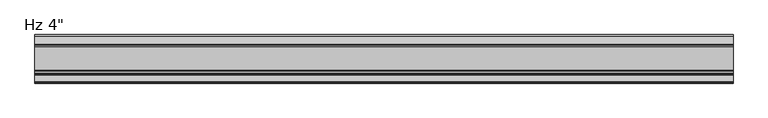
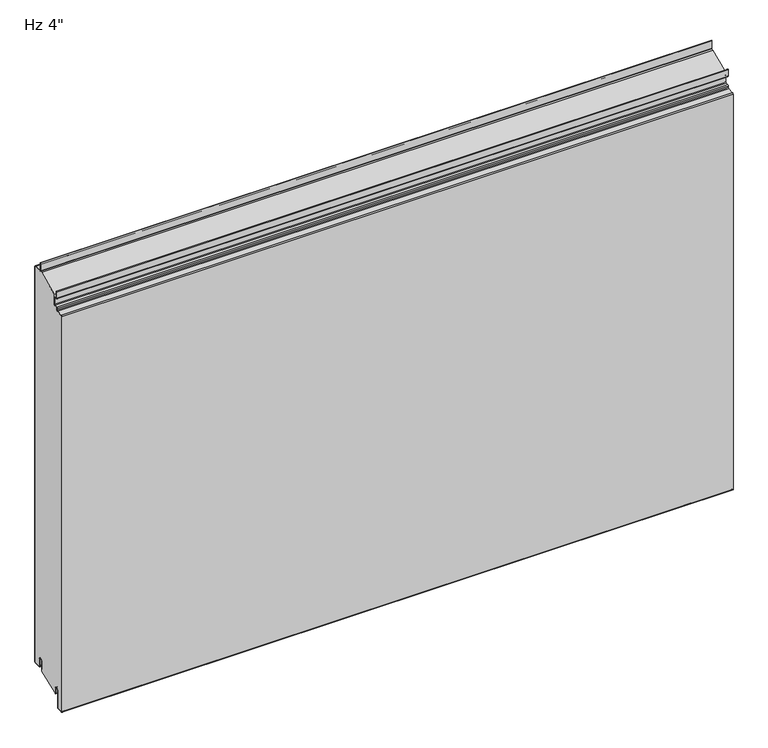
"""IFC4 building model written with IfcOpenShell, lengths in millimetres: plate geometry."""

import ifcopenshell
import ifcopenshell.guid

model = None  # the IFC model being written
_history = None  # IfcOwnerHistory: only IFC2X3 demands one
_inside = {}  # id of a spatial element -> (the spatial element, [elements in it])
_under = {}  # id of a project, library or spatial element -> (it, [spatial elements below it])
_declared = {}  # id of a project -> (the project, [libraries it declares])
_typed = {}  # id of a type object -> (the type object, [elements of that type])
_made_of = {}  # id of a material, layer set ... -> (it, [elements and type objects made of it])


def new_model(schema):
    """Start an empty IFC model of exactly this schema.

    Asked for "IFC4X3", IfcOpenShell would pick the latest addendum, in which some entities
    have other attributes; the version numbers below select the first issue.
    IFC2X3 requires an IfcOwnerHistory on every rooted entity: one is made here for all.
    """
    global model, _history
    if schema == "IFC4X3":
        model = ifcopenshell.file(schema_version=(4, 3, 0, 0))
    else:
        model = ifcopenshell.file(schema=schema)
    _inside.clear()
    _under.clear()
    _declared.clear()
    _typed.clear()
    _made_of.clear()
    _history = None
    if model.schema == "IFC2X3":
        org = make("IfcOrganization", Name="unknown")
        user = make(
            "IfcPersonAndOrganization",
            ThePerson=make("IfcPerson", FamilyName="unknown"),
            TheOrganization=org,
        )
        app = make(
            "IfcApplication",
            ApplicationDeveloper=org,
            Version="unknown",
            ApplicationFullName="unknown",
            ApplicationIdentifier="unknown",
        )
        _history = make(
            "IfcOwnerHistory",
            OwningUser=user,
            OwningApplication=app,
            ChangeAction="ADDED",
            CreationDate=0,
        )
    return model


def make(cls, **values):
    """One entity of the class cls with the attributes given. An attribute that is None is left unset."""
    return model.create_entity(
        cls, **{name: value for name, value in values.items() if value is not None}
    )


def rooted(cls, **values):
    """An entity with a GlobalId (a new one), such as an element, a storey or a relation."""
    return make(cls, GlobalId=ifcopenshell.guid.new(), OwnerHistory=_history, **values)


def si_unit(unit_type, name, prefix=None):
    """IfcSIUnit, for example si_unit("LENGTHUNIT", "METRE", prefix="MILLI")."""
    return make("IfcSIUnit", UnitType=unit_type, Prefix=prefix, Name=name)


def assignment(units):
    """IfcUnitAssignment: the units of a project."""
    return None if units is None else make("IfcUnitAssignment", Units=units)


def point(xyz):
    """IfcCartesianPoint."""
    return None if xyz is None else make("IfcCartesianPoint", Coordinates=xyz)


def direction(xyz):
    """IfcDirection."""
    return None if xyz is None else make("IfcDirection", DirectionRatios=xyz)


def frame(location, z_axis=None, x_axis=None):
    """IfcAxis2Placement3D, a coordinate frame: its origin and axes. An axis left out is left unset."""
    return make(
        "IfcAxis2Placement3D",
        Location=point(location),
        Axis=direction(z_axis),
        RefDirection=direction(x_axis),
    )


def frame_2d(location, x_axis=None):
    """IfcAxis2Placement2D, a coordinate frame in the plane: its origin and x axis."""
    return make(
        "IfcAxis2Placement2D", Location=point(location), RefDirection=direction(x_axis)
    )


def origin():
    """The frame at (0, 0, 0) with its axes left unset."""
    return frame((0.0, 0.0, 0.0))


def place(relative_to, where):
    """IfcLocalPlacement: puts the frame where relative to a parent placement (None: the world)."""
    return make(
        "IfcLocalPlacement", PlacementRelTo=relative_to, RelativePlacement=where
    )


def context(
    kind, dimensions, precision=None, world=None, true_north=None, identifier=None
):
    """IfcGeometricRepresentationContext, for example the 3D "Model" context."""
    return make(
        "IfcGeometricRepresentationContext",
        ContextIdentifier=identifier,
        ContextType=kind,
        CoordinateSpaceDimension=dimensions,
        Precision=precision,
        WorldCoordinateSystem=world,
        TrueNorth=true_north,
    )


def project(units=None, contexts=None):
    """IfcProject with its units and contexts."""
    return rooted(
        "IfcProject",
        Name="project",
        RepresentationContexts=contexts,
        UnitsInContext=assignment(units),
    )


def spatial(cls, under=None, at=None, **own):
    """A site, building, storey or space (cls), placed at a placement, below another one or the project."""
    s = rooted(cls, ObjectPlacement=at, **own)
    if under is not None:
        _under.setdefault(under.id(), (under, []))[1].append(s)
    return s


def polyline(points):
    """IfcPolyline through the points."""
    return make("IfcPolyline", Points=[point(p) for p in points])


def circle_curve(where, radius):
    """IfcCircle in the frame where."""
    return make("IfcCircle", Position=where, Radius=radius)


def ellipse_curve(where, semi_axis1, semi_axis2):
    """IfcEllipse in the frame where."""
    return make(
        "IfcEllipse", Position=where, SemiAxis1=semi_axis1, SemiAxis2=semi_axis2
    )


def trimmed(basis, trim1, trim2, sense, master):
    """IfcTrimmedCurve: the piece of a basis curve between two trims."""
    return make(
        "IfcTrimmedCurve",
        BasisCurve=basis,
        Trim1=trim1,
        Trim2=trim2,
        SenseAgreement=sense,
        MasterRepresentation=master,
    )


def segment(curve, same_sense, transition):
    """IfcCompositeCurveSegment."""
    return make(
        "IfcCompositeCurveSegment",
        Transition=transition,
        SameSense=same_sense,
        ParentCurve=curve,
    )


def composite_curve(segments, self_intersect=None):
    """IfcCompositeCurve: segments joined end to end."""
    return make("IfcCompositeCurve", Segments=segments, SelfIntersect=self_intersect)


def outline(outer, holes=None, kind="AREA"):
    """IfcArbitraryClosedProfileDef: a profile drawn as a closed curve; with holes, ...WithVoids."""
    if holes is None:
        return make("IfcArbitraryClosedProfileDef", ProfileType=kind, OuterCurve=outer)
    return make(
        "IfcArbitraryProfileDefWithVoids",
        ProfileType=kind,
        OuterCurve=outer,
        InnerCurves=holes,
    )


def extrude(swept, where, along, depth):
    """IfcExtrudedAreaSolid: the profile swept, set in the frame where, extruded along a direction by depth."""
    return make(
        "IfcExtrudedAreaSolid",
        SweptArea=swept,
        Position=where,
        ExtrudedDirection=direction(along),
        Depth=depth,
    )


def shape(context_of_items, identifier, shape_type, items):
    """IfcShapeRepresentation: the items that make up one representation, for example the "Body"."""
    return make(
        "IfcShapeRepresentation",
        ContextOfItems=context_of_items,
        RepresentationIdentifier=identifier,
        RepresentationType=shape_type,
        Items=items,
    )


def source(mapping_origin, context_of_items, identifier, shape_type, items):
    """IfcRepresentationMap: a shape defined once, which mapped items show again and again."""
    return make(
        "IfcRepresentationMap",
        MappingOrigin=mapping_origin,
        MappedRepresentation=shape(context_of_items, identifier, shape_type, items),
    )


def transform(
    local_origin,
    x_axis=None,
    y_axis=None,
    z_axis=None,
    scale=None,
    scale2=None,
    scale3=None,
    uniform=True,
):
    """IfcCartesianTransformationOperator3D, or its non-uniform kind. x_axis, y_axis, z_axis: its Axis1, 2, 3."""
    if uniform:
        return make(
            "IfcCartesianTransformationOperator3D",
            Axis1=direction(x_axis),
            Axis2=direction(y_axis),
            LocalOrigin=point(local_origin),
            Scale=scale,
            Axis3=direction(z_axis),
        )
    return make(
        "IfcCartesianTransformationOperator3DnonUniform",
        Axis1=direction(x_axis),
        Axis2=direction(y_axis),
        LocalOrigin=point(local_origin),
        Scale=scale,
        Axis3=direction(z_axis),
        Scale2=scale2,
        Scale3=scale3,
    )


def mapped(mapping_source, mapping_target):
    """IfcMappedItem: shows the shape of a source again, moved by a transform."""
    return make(
        "IfcMappedItem", MappingSource=mapping_source, MappingTarget=mapping_target
    )


def made_of(thing, what):
    """Note that an element or type object is made of a material, layer set ...; save() writes the relation."""
    if what is not None:
        _made_of.setdefault(what.id(), (what, []))[1].append(thing)
    return thing


def element(
    cls,
    number,
    at=None,
    inside=None,
    cuts=None,
    type_object=None,
    material=None,
    context=None,
    identifier="Body",
    shape_type=None,
    held_by="IfcProductDefinitionShape",
    body=None,
    shapes=None,
    **own,
):
    """One element of the class cls, such as IfcWall. Its Tag is "e" and its number.

    at: its placement. inside: the storey or other place that contains it. cuts: it is an
    opening in that element (IfcRelVoidsElement). A single representation is given by context,
    identifier, shape_type and body (its items); several are given by shapes. held_by: the class
    of the entity that holds the representations. save() writes the other relations.
    """
    e = rooted(cls, Tag="e%d" % number, ObjectPlacement=at, **own)
    if body is not None:
        shapes = [shape(context, identifier, shape_type, body)]
    if shapes is not None:
        e.Representation = make(held_by, Representations=shapes)
    if inside is not None:
        _inside.setdefault(inside.id(), (inside, []))[1].append(e)
    if cuts is not None:
        rooted(
            "IfcRelVoidsElement", RelatingBuildingElement=cuts, RelatedOpeningElement=e
        )
    if type_object is not None:
        _typed.setdefault(type_object.id(), (type_object, []))[1].append(e)
    return made_of(e, material)


def aggregate(whole, parts):
    """IfcRelAggregates: a whole, such as a stair, and the parts it consists of."""
    return rooted("IfcRelAggregates", RelatingObject=whole, RelatedObjects=parts)


def save(model, path):
    """Write the relations noted so far, then the file.

    IfcRelAggregates (storeys below a building ...), IfcRelContainedInSpatialStructure (elements
    in a storey), IfcRelDefinesByType, IfcRelAssociatesMaterial and IfcRelDeclares: one each for
    every whole, place, type object, material and project.
    """
    for whole, parts in _under.values():
        aggregate(whole, parts)
    for where, things in _inside.values():
        rooted(
            "IfcRelContainedInSpatialStructure",
            RelatedElements=things,
            RelatingStructure=where,
        )
    for kind, things in _typed.values():
        rooted("IfcRelDefinesByType", RelatedObjects=things, RelatingType=kind)
    for what, things in _made_of.values():
        rooted("IfcRelAssociatesMaterial", RelatedObjects=things, RelatingMaterial=what)
    for by, libraries in _declared.values():
        rooted("IfcRelDeclares", RelatingContext=by, RelatedDefinitions=libraries)
    model.write(path)


def plane_surface(at):
    """IfcPlane: the flat surface through the origin of the frame at, square to its z axis."""
    return make("IfcPlane", Position=at)


def cylinder_surface(at, radius):
    """IfcCylindricalSurface: all points at the distance radius from the z axis of the frame at."""
    return make("IfcCylindricalSurface", Position=at, Radius=radius)


def revolved_surface(curve, axis_point, axis_direction):
    """IfcSurfaceOfRevolution: the curve turned about the line through axis_point along axis_direction."""
    return make(
        "IfcSurfaceOfRevolution",
        SweptCurve=make("IfcArbitraryOpenProfileDef", ProfileType="CURVE", Curve=curve),
        AxisPosition=make("IfcAxis1Placement", Location=point(axis_point), Axis=direction(axis_direction)),
    )


def extruded_surface(curve, direction_of_extrusion, depth):
    """IfcSurfaceOfLinearExtrusion: the curve pushed along a direction by depth."""
    return make(
        "IfcSurfaceOfLinearExtrusion",
        SweptCurve=make("IfcArbitraryOpenProfileDef", ProfileType="CURVE", Curve=curve),
        ExtrudedDirection=direction(direction_of_extrusion),
        Depth=depth,
    )


def advanced_brep(points, edges, surfaces, faces):
    """IfcAdvancedBrep: a solid bounded by faces that lie on surfaces and meet in shared edges.

    An edge is (start, end): straight between two places in points (the first is 0);
    or (start, end, curve); or (start, end, curve, False) where it runs against its curve.
    A face is (place in surfaces, loops), or (place, loops, False) where it looks against
    its surface's normal. A loop lists edges by number (the first is 1), with a minus sign
    where the edge is run from its end to its start. The first loop is the outer one.
    """
    corners = [point(p) for p in points]
    vertices = [make("IfcVertexPoint", VertexGeometry=c) for c in corners]
    made = []
    for start, end, *more in edges:
        made.append(
            make(
                "IfcEdgeCurve",
                EdgeStart=vertices[start],
                EdgeEnd=vertices[end],
                EdgeGeometry=more[0] if more else make("IfcPolyline", Points=[corners[start], corners[end]]),
                SameSense=more[1] if len(more) > 1 else True,
            )
        )
    hull = []
    for where, loops, *sense in faces:
        bounds = []
        for j, loop in enumerate(loops):
            ring = [make("IfcOrientedEdge", EdgeElement=made[abs(k) - 1], Orientation=k > 0) for k in loop]
            bounds.append(
                make(
                    "IfcFaceOuterBound" if j == 0 else "IfcFaceBound",
                    Bound=make("IfcEdgeLoop", EdgeList=ring),
                    Orientation=True,
                )
            )
        hull.append(make("IfcAdvancedFace", Bounds=bounds, FaceSurface=surfaces[where], SameSense=sense[0] if sense else True))
    return make("IfcAdvancedBrep", Outer=make("IfcClosedShell", CfsFaces=hull))


def plate_6702c4e9(model_context):
    return source(origin(), model_context, "Body", "SolidModel", [
        extrude(outline(composite_curve([segment(trimmed(circle_curve(frame_2d((-21.43125, 19.05)), 4.96875), [point((-16.4625, 19.05))], [point((-26.4, 19.05))], True, "CARTESIAN"), True, "CONTINUOUS"), segment(polyline([(-26.4, 19.05), (-26.4, -3.1323422), (-74.6157227, -23.01875), (-76.2, -23.01875), (-76.2, -13.5080174), (-76.99375, -13.5080174), (-76.7875, -11.9205174)]), True, "CONTINUOUS"), segment(trimmed(circle_curve(frame_2d((-81.75625, -11.9205174)), 4.96875), [point((-76.7875, -11.9205174))], [point((-86.725, -11.9205174))], True, "CARTESIAN"), True, "CONTINUOUS"), segment(polyline([(-86.725, -11.9205174), (-86.725, -50.1038221)]), True, "CONTINUOUS"), segment(trimmed(circle_curve(frame_2d((-88.10625, -50.1038221)), 1.38125), [point((-86.725, -50.1038221))], [point((-88.033961, -51.4831791))], False, "CARTESIAN"), True, "CONTINUOUS"), segment(polyline([(-88.033961, -51.4831791), (-99.146461, -52.0655606)]), True, "CONTINUOUS"), segment(trimmed(circle_curve(frame_2d((-99.21875, -50.6862035)), 1.38125), [point((-99.146461, -52.0655606))], [point((-100.6, -50.6862035))], False, "CARTESIAN"), True, "CONTINUOUS"), segment(polyline([(-100.6, -50.6862035), (-100.6, 857.3572607)]), True, "CONTINUOUS"), segment(trimmed(circle_curve(frame_2d((-99.21875, 857.3572607)), 1.38125), [point((-100.6, 857.3572607))], [point((-99.291039, 858.7366177))], False, "CARTESIAN"), True, "CONTINUOUS"), segment(polyline([(-99.291039, 858.7366177), (-85.5895807, 859.4546807)]), True, "CONTINUOUS"), segment(trimmed(circle_curve(frame_2d((-85.725, 862.0386347)), 2.5875), [point((-85.5895807, 859.4546807))], [point((-83.1375, 862.0386347))], True, "CARTESIAN"), True, "CONTINUOUS"), segment(polyline([(-83.1375, 862.0386347), (-83.1375, 865.0824411)]), True, "CONTINUOUS"), segment(trimmed(circle_curve(frame_2d((-81.75625, 865.0824411)), 1.38125), [point((-83.1375, 865.0824411))], [point((-81.828539, 866.4617981))], False, "CARTESIAN"), True, "CONTINUOUS"), segment(polyline([(-81.828539, 866.4617981), (-76.0645807, 866.7638744)]), True, "CONTINUOUS"), segment(trimmed(circle_curve(frame_2d((-76.2, 869.3478283)), 2.5875), [point((-76.0645807, 866.7638744))], [point((-73.6125, 869.3478283))], True, "CARTESIAN"), True, "CONTINUOUS"), segment(polyline([(-73.6125, 869.3478283), (-73.6125, 891.7892934), (-24.9057308, 912.60625), (-2.38125, 912.60625)]), True, "CONTINUOUS"), segment(trimmed(circle_curve(frame_2d((-2.38125, 911.225)), 1.38125), [point((-2.38125, 912.60625))], [point((-1.0, 911.225))], False, "CARTESIAN"), True, "CONTINUOUS"), segment(polyline([(-1.0, 911.225), (-1.0, 3.175)]), True, "CONTINUOUS"), segment(trimmed(circle_curve(frame_2d((-2.38125, 3.175)), 1.38125), [point((-1.0, 3.175))], [point((-2.38125, 1.79375))], False, "CARTESIAN"), True, "CONTINUOUS"), segment(polyline([(-2.38125, 1.79375), (-15.08125, 1.79375)]), True, "CONTINUOUS"), segment(trimmed(circle_curve(frame_2d((-15.08125, 3.175)), 1.38125), [point((-15.08125, 1.79375))], [point((-16.4625, 3.175))], False, "CARTESIAN"), True, "CONTINUOUS"), segment(polyline([(-16.4625, 3.175), (-16.4625, 19.05)]), True, "CONTINUOUS")], self_intersect=False)), frame((-730.0, 0.0, 0.0), z_axis=(1.0, 0.0, 0.0), x_axis=(0.0, 1.0, 0.0)), (0.0, 0.0, 1.0), 1460.0),
        extrude(outline(composite_curve([segment(polyline([(-25.4, 0.79375), (-26.4, 0.79375), (-26.4, 19.05)]), True, "CONTINUOUS"), segment(trimmed(circle_curve(frame_2d((-21.43125, 19.05)), 4.96875), [point((-26.4, 19.05))], [point((-16.4625, 19.05))], False, "CARTESIAN"), True, "CONTINUOUS"), segment(polyline([(-16.4625, 19.05), (-16.4625, 3.175)]), True, "CONTINUOUS"), segment(trimmed(circle_curve(frame_2d((-15.08125, 3.175)), 1.38125), [point((-16.4625, 3.175))], [point((-15.08125, 1.79375))], True, "CARTESIAN"), True, "CONTINUOUS"), segment(polyline([(-15.08125, 1.79375), (-2.38125, 1.79375)]), True, "CONTINUOUS"), segment(trimmed(circle_curve(frame_2d((-2.38125, 3.175)), 1.38125), [point((-2.38125, 1.79375))], [point((-1.0, 3.175))], True, "CARTESIAN"), True, "CONTINUOUS"), segment(polyline([(-1.0, 3.175), (-1.0, 911.225)]), True, "CONTINUOUS"), segment(trimmed(circle_curve(frame_2d((-2.38125, 911.225)), 1.38125), [point((-1.0, 911.225))], [point((-2.38125, 912.60625))], True, "CARTESIAN"), True, "CONTINUOUS"), segment(polyline([(-2.38125, 912.60625), (-19.446875, 912.60625)]), True, "CONTINUOUS"), segment(trimmed(circle_curve(frame_2d((-19.446875, 915.19375)), 2.5875), [point((-19.446875, 912.60625))], [point((-22.034375, 915.19375))], False, "CARTESIAN"), True, "CONTINUOUS"), segment(polyline([(-22.034375, 915.19375), (-22.034375, 932.65625), (-21.034375, 932.65625), (-21.034375, 915.19375)]), True, "CONTINUOUS"), segment(trimmed(circle_curve(frame_2d((-19.446875, 915.19375)), 1.5875), [point((-21.034375, 915.19375))], [point((-19.446875, 913.60625))], True, "CARTESIAN"), True, "CONTINUOUS"), segment(polyline([(-19.446875, 913.60625), (-2.38125, 913.60625)]), True, "CONTINUOUS"), segment(trimmed(circle_curve(frame_2d((-2.38125, 911.225)), 2.38125), [point((-2.38125, 913.60625))], [point((0.0, 911.225))], False, "CARTESIAN"), True, "CONTINUOUS"), segment(polyline([(0.0, 911.225), (0.0, 3.175)]), True, "CONTINUOUS"), segment(trimmed(circle_curve(frame_2d((-2.38125, 3.175)), 2.38125), [point((0.0, 3.175))], [point((-2.38125, 0.79375))], False, "CARTESIAN"), True, "CONTINUOUS"), segment(polyline([(-2.38125, 0.79375), (-15.08125, 0.79375)]), True, "CONTINUOUS"), segment(trimmed(circle_curve(frame_2d((-15.08125, 3.175)), 2.38125), [point((-15.08125, 0.79375))], [point((-17.4625, 3.175))], False, "CARTESIAN"), True, "CONTINUOUS"), segment(polyline([(-17.4625, 3.175), (-17.4625, 19.05)]), True, "CONTINUOUS"), segment(trimmed(circle_curve(frame_2d((-21.43125, 19.05)), 3.96875), [point((-17.4625, 19.05))], [point((-25.4, 19.05))], True, "CARTESIAN"), True, "CONTINUOUS"), segment(polyline([(-25.4, 19.05), (-25.4, 0.79375)]), True, "CONTINUOUS")], self_intersect=False)), frame((-730.0, 0.0, 0.0), z_axis=(1.0, 0.0, 0.0), x_axis=(0.0, 1.0, 0.0)), (0.0, 0.0, 1.0), 1460.0),
        advanced_brep(
        [(-730.0, -76.2, -23.2314549), (-730.0, -77.7875, -23.2314549), (-730.0, -77.7875, -11.9205174), (-730.0, -85.725, -11.9205174), (-730.0, -85.725, -50.1038221), (-730.0, -87.981625, -52.4818086), (-730.0, -99.094125, -53.0641901), (-730.0, -101.6, -50.6862035), (-730.0, -101.6, 857.3572607), (-730.0, -99.343375, 859.7352473), (-730.0, -85.6419167, 860.4533103), (-730.0, -84.1375, 862.0386347), (-730.0, -84.1375, 865.0824411), (-730.0, -81.880875, 867.4604276), (-730.0, -76.1169167, 867.7625039), (-730.0, -74.6125, 869.3478283), (-730.0, -74.6125, 884.2232326), (-730.0, -76.2, 885.8107326), (-730.0, -80.3671875, 885.8107326), (-730.0, -82.7484375, 888.1919826), (-730.0, -82.7484375, 902.6836032), (-730.0, -80.9546875, 902.6836032), (-730.0, -80.9546875, 892.9544826), (-730.0, -81.7484375, 892.9544826), (-730.0, -81.7484375, 888.1919826), (-730.0, -80.3671875, 886.8107326), (-730.0, -76.2, 886.8107326), (-730.0, -73.6125, 884.2232326), (-730.0, -73.6125, 869.3478283), (-730.0, -76.0645807, 866.7638744), (-730.0, -81.828539, 866.4617981), (-730.0, -83.1375, 865.0824411), (-730.0, -83.1375, 862.0386347), (-730.0, -85.5895807, 859.4546807), (-730.0, -99.291039, 858.7366177), (-730.0, -100.6, 857.3572607), (-730.0, -100.6, -50.6862035), (-730.0, -99.146461, -52.0655606), (-730.0, -88.033961, -51.4831791), (-730.0, -86.725, -50.1038221), (-730.0, -86.725, -11.9205174), (-730.0, -76.7875, -11.9205174), (-730.0, -76.99375, -13.5080174), (-730.0, -76.2, -13.5080174), (730.0, -76.2, -23.2314549), (730.0, -76.2, -13.5080174), (730.0, -76.99375, -13.5080174), (730.0, -76.7875, -11.9205174), (730.0, -86.725, -11.9205174), (730.0, -86.725, -50.1038221), (730.0, -88.033961, -51.4831791), (730.0, -99.146461, -52.0655606), (730.0, -100.6, -50.6862035), (730.0, -100.6, 857.3572607), (730.0, -99.291039, 858.7366177), (730.0, -85.5895807, 859.4546807), (730.0, -83.1375, 862.0386347), (730.0, -83.1375, 865.0824411), (730.0, -81.828539, 866.4617981), (730.0, -76.0645807, 866.7638744), (730.0, -73.6125, 869.3478283), (730.0, -73.6125, 884.2232326), (730.0, -76.2, 886.8107326), (730.0, -80.3671875, 886.8107326), (730.0, -81.7484375, 888.1919826), (730.0, -81.7484375, 892.9544826), (730.0, -80.9546875, 892.9544826), (730.0, -80.9546875, 902.6836032), (730.0, -82.7484375, 902.6836032), (730.0, -82.7484375, 888.1919826), (730.0, -80.3671875, 885.8107326), (730.0, -76.2, 885.8107326), (730.0, -74.6125, 884.2232326), (730.0, -74.6125, 869.3478283), (730.0, -76.1169167, 867.7625039), (730.0, -81.880875, 867.4604276), (730.0, -84.1375, 865.0824411), (730.0, -84.1375, 862.0386347), (730.0, -85.6419167, 860.4533103), (730.0, -99.343375, 859.7352473), (730.0, -101.6, 857.3572607), (730.0, -101.6, -50.6862035), (730.0, -99.094125, -53.0641901), (730.0, -87.981625, -52.4818086), (730.0, -85.725, -50.1038221), (730.0, -85.725, -11.9205174), (730.0, -77.7875, -11.9205174), (730.0, -77.7875, -23.2314549)],
        [
            (0, 1, circle_curve(frame((-730.0, -76.99375, -23.2314549), z_axis=(-1.0, 0.0, 0.0), x_axis=(0.0, 0.0, 1.0)), 0.79375)),
            (1, 2),
            (2, 3, circle_curve(frame((-730.0, -81.75625, -11.9205174), z_axis=(1.0, 0.0, 0.0), x_axis=(0.0, 0.0, 1.0)), 3.96875)),
            (3, 4),
            (4, 5, circle_curve(frame((-730.0, -88.10625, -50.1038221), z_axis=(-1.0, 0.0, 0.0), x_axis=(0.0, 0.0, 1.0)), 2.38125)),
            (5, 6),
            (6, 7, circle_curve(frame((-730.0, -99.21875, -50.6862035), z_axis=(-1.0, 0.0, 0.0), x_axis=(0.0, 0.0, 1.0)), 2.38125)),
            (7, 8),
            (8, 9, circle_curve(frame((-730.0, -99.21875, 857.3572607), z_axis=(-1.0, 0.0, 0.0), x_axis=(0.0, 0.0, 1.0)), 2.38125)),
            (9, 10),
            (10, 11, circle_curve(frame((-730.0, -85.725, 862.0386347), z_axis=(1.0, 0.0, 0.0), x_axis=(0.0, 0.0, 1.0)), 1.5875)),
            (11, 12),
            (12, 13, circle_curve(frame((-730.0, -81.75625, 865.0824411), z_axis=(-1.0, 0.0, 0.0), x_axis=(0.0, 0.0, 1.0)), 2.38125)),
            (13, 14),
            (14, 15, circle_curve(frame((-730.0, -76.2, 869.3478283), z_axis=(1.0, 0.0, 0.0), x_axis=(0.0, 0.0, 1.0)), 1.5875)),
            (15, 16),
            (16, 17, circle_curve(frame((-730.0, -76.2, 884.2232326), z_axis=(1.0, 0.0, 0.0), x_axis=(0.0, 0.0, 1.0)), 1.5875)),
            (17, 18),
            (18, 19, circle_curve(frame((-730.0, -80.3671875, 888.1919826), z_axis=(-1.0, 0.0, 0.0), x_axis=(0.0, 0.0, 1.0)), 2.38125)),
            (19, 20),
            (20, 21, ellipse_curve(frame((-730.0, -81.8515625, 902.6836032), z_axis=(-1.0, 0.0, 0.0), x_axis=(0.0, 1.0, 0.0)), 0.896875, 0.7852275)),
            (21, 22),
            (22, 23),
            (23, 24),
            (24, 25, circle_curve(frame((-730.0, -80.3671875, 888.1919826), z_axis=(1.0, 0.0, 0.0), x_axis=(0.0, 0.0, 1.0)), 1.38125)),
            (25, 26),
            (26, 27, circle_curve(frame((-730.0, -76.2, 884.2232326), z_axis=(-1.0, 0.0, 0.0), x_axis=(0.0, 0.0, 1.0)), 2.5875)),
            (27, 28),
            (28, 29, circle_curve(frame((-730.0, -76.2, 869.3478283), z_axis=(-1.0, 0.0, 0.0), x_axis=(0.0, 0.0, 1.0)), 2.5875)),
            (29, 30),
            (30, 31, circle_curve(frame((-730.0, -81.75625, 865.0824411), z_axis=(1.0, 0.0, 0.0), x_axis=(0.0, 0.0, 1.0)), 1.38125)),
            (31, 32),
            (32, 33, circle_curve(frame((-730.0, -85.725, 862.0386347), z_axis=(-1.0, 0.0, 0.0), x_axis=(0.0, 0.0, 1.0)), 2.5875)),
            (33, 34),
            (34, 35, circle_curve(frame((-730.0, -99.21875, 857.3572607), z_axis=(1.0, 0.0, 0.0), x_axis=(0.0, 0.0, 1.0)), 1.38125)),
            (35, 36),
            (36, 37, circle_curve(frame((-730.0, -99.21875, -50.6862035), z_axis=(1.0, 0.0, 0.0), x_axis=(0.0, 0.0, 1.0)), 1.38125)),
            (37, 38),
            (38, 39, circle_curve(frame((-730.0, -88.10625, -50.1038221), z_axis=(1.0, 0.0, 0.0), x_axis=(0.0, 0.0, 1.0)), 1.38125)),
            (39, 40),
            (40, 41, circle_curve(frame((-730.0, -81.75625, -11.9205174), z_axis=(-1.0, 0.0, 0.0), x_axis=(0.0, 0.0, 1.0)), 4.96875)),
            (41, 42),
            (42, 43),
            (43, 0),
            (44, 45),
            (45, 46),
            (46, 47),
            (47, 48, circle_curve(frame((730.0, -81.75625, -11.9205174), z_axis=(1.0, 0.0, 0.0), x_axis=(0.0, 0.0, 1.0)), 4.96875)),
            (48, 49),
            (49, 50, circle_curve(frame((730.0, -88.10625, -50.1038221), z_axis=(-1.0, 0.0, 0.0), x_axis=(0.0, 0.0, 1.0)), 1.38125)),
            (50, 51),
            (51, 52, circle_curve(frame((730.0, -99.21875, -50.6862035), z_axis=(-1.0, 0.0, 0.0), x_axis=(0.0, 0.0, 1.0)), 1.38125)),
            (52, 53),
            (53, 54, circle_curve(frame((730.0, -99.21875, 857.3572607), z_axis=(-1.0, 0.0, 0.0), x_axis=(0.0, 0.0, 1.0)), 1.38125)),
            (54, 55),
            (55, 56, circle_curve(frame((730.0, -85.725, 862.0386347), z_axis=(1.0, 0.0, 0.0), x_axis=(0.0, 0.0, 1.0)), 2.5875)),
            (56, 57),
            (57, 58, circle_curve(frame((730.0, -81.75625, 865.0824411), z_axis=(-1.0, 0.0, 0.0), x_axis=(0.0, 0.0, 1.0)), 1.38125)),
            (58, 59),
            (59, 60, circle_curve(frame((730.0, -76.2, 869.3478283), z_axis=(1.0, 0.0, 0.0), x_axis=(0.0, 0.0, 1.0)), 2.5875)),
            (60, 61),
            (61, 62, circle_curve(frame((730.0, -76.2, 884.2232326), z_axis=(1.0, 0.0, 0.0), x_axis=(0.0, 0.0, 1.0)), 2.5875)),
            (62, 63),
            (63, 64, circle_curve(frame((730.0, -80.3671875, 888.1919826), z_axis=(-1.0, 0.0, 0.0), x_axis=(0.0, 0.0, 1.0)), 1.38125)),
            (64, 65),
            (65, 66),
            (66, 67),
            (67, 68, ellipse_curve(frame((730.0, -81.8515625, 902.6836032), z_axis=(1.0, 0.0, 0.0), x_axis=(0.0, 1.0, 0.0)), 0.896875, 0.7852275)),
            (68, 69),
            (69, 70, circle_curve(frame((730.0, -80.3671875, 888.1919826), z_axis=(1.0, 0.0, 0.0), x_axis=(0.0, 0.0, 1.0)), 2.38125)),
            (70, 71),
            (71, 72, circle_curve(frame((730.0, -76.2, 884.2232326), z_axis=(-1.0, 0.0, 0.0), x_axis=(0.0, 0.0, 1.0)), 1.5875)),
            (72, 73),
            (73, 74, circle_curve(frame((730.0, -76.2, 869.3478283), z_axis=(-1.0, 0.0, 0.0), x_axis=(0.0, 0.0, 1.0)), 1.5875)),
            (74, 75),
            (75, 76, circle_curve(frame((730.0, -81.75625, 865.0824411), z_axis=(1.0, 0.0, 0.0), x_axis=(0.0, 0.0, 1.0)), 2.38125)),
            (76, 77),
            (77, 78, circle_curve(frame((730.0, -85.725, 862.0386347), z_axis=(-1.0, 0.0, 0.0), x_axis=(0.0, 0.0, 1.0)), 1.5875)),
            (78, 79),
            (79, 80, circle_curve(frame((730.0, -99.21875, 857.3572607), z_axis=(1.0, 0.0, 0.0), x_axis=(0.0, 0.0, 1.0)), 2.38125)),
            (80, 81),
            (81, 82, circle_curve(frame((730.0, -99.21875, -50.6862035), z_axis=(1.0, 0.0, 0.0), x_axis=(0.0, 0.0, 1.0)), 2.38125)),
            (82, 83),
            (83, 84, circle_curve(frame((730.0, -88.10625, -50.1038221), z_axis=(1.0, 0.0, 0.0), x_axis=(0.0, 0.0, 1.0)), 2.38125)),
            (84, 85),
            (85, 86, circle_curve(frame((730.0, -81.75625, -11.9205174), z_axis=(-1.0, 0.0, 0.0), x_axis=(0.0, 0.0, 1.0)), 3.96875)),
            (86, 87),
            (87, 44, circle_curve(frame((730.0, -76.99375, -23.2314549), z_axis=(1.0, 0.0, 0.0), x_axis=(0.0, 0.0, 1.0)), 0.79375)),
            (23, 65),
            (64, 24),
            (28, 60),
            (59, 29),
            (58, 30),
            (57, 31),
            (56, 32),
            (55, 33),
            (54, 34),
            (53, 35),
            (52, 36),
            (51, 37),
            (50, 38),
            (49, 39),
            (48, 40),
            (43, 45),
            (44, 0),
            (87, 1),
            (86, 2),
            (85, 3),
            (84, 4),
            (83, 5),
            (82, 6),
            (81, 7),
            (80, 8),
            (79, 9),
            (78, 10),
            (77, 11),
            (76, 12),
            (75, 13),
            (74, 14),
            (73, 15),
            (72, 16),
            (71, 17),
            (70, 18),
            (69, 19),
            (68, 20),
            (27, 61),
            (26, 62),
            (25, 63),
            (21, 67),
            (66, 22),
            (41, 47),
            (46, 42),
        ],
        [
            plane_surface(frame((-730.0, -101.6, 457.2), z_axis=(-1.0, 0.0, 0.0), x_axis=(0.0, -1.0, 0.0))),
            plane_surface(frame((730.0, -101.6, 457.2), z_axis=(1.0, 0.0, 0.0), x_axis=(0.0, -1.0, 0.0))),
            plane_surface(frame((-730.0, -81.7484375, 888.1919826), z_axis=(0.0, 1.0, 0.0), x_axis=(1.0, 0.0, 0.0))),
            cylinder_surface(frame((-730.0, -76.2, 869.3478283), z_axis=(-1.0, 0.0, 0.0), x_axis=(0.0, 0.0, 1.0)), 2.5875),
            plane_surface(frame((-730.0, -81.828539, 866.4617981), z_axis=(0.0, 0.0523359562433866, -0.9986295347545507), x_axis=(1.0, 0.0, 0.0))),
            revolved_surface(polyline([(730.0, -81.75625, 866.4636911), (-730.0, -81.75625, 866.4636911)]), (-730.0, -81.75625, 865.0824411), (1.0, 0.0, 0.0)),
            plane_surface(frame((-730.0, -83.1375, 862.0386347), z_axis=(0.0, 1.0, 0.0), x_axis=(1.0, 0.0, 0.0))),
            cylinder_surface(frame((-730.0, -85.725, 862.0386347), z_axis=(-1.0, 0.0, 0.0), x_axis=(0.0, 0.0, 1.0)), 2.5875),
            plane_surface(frame((-730.0, -99.291039, 858.7366177), z_axis=(0.0, 0.05233595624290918, -0.9986295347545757), x_axis=(1.0, 0.0, 0.0))),
            revolved_surface(polyline([(730.0, -99.21875, 858.7385107), (-730.0, -99.21875, 858.7385107)]), (-730.0, -99.21875, 857.3572607), (1.0, 0.0, 0.0)),
            plane_surface(frame((-730.0, -100.6, -50.6862035), z_axis=(0.0, 1.0, 0.0), x_axis=(1.0, 0.0, 0.0))),
            revolved_surface(polyline([(730.0, -99.21875, -49.304953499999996), (-730.0, -99.21875, -49.304953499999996)]), (-730.0, -99.21875, -50.6862035), (1.0, 0.0, 0.0)),
            plane_surface(frame((-730.0, -88.033961, -51.4831791), z_axis=(0.0, -0.05233595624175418, 0.9986295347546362), x_axis=(1.0, 0.0, 0.0))),
            revolved_surface(polyline([(730.0, -88.10625, -48.7225721), (-730.0, -88.10625, -48.7225721)]), (-730.0, -88.10625, -50.1038221), (1.0, 0.0, 0.0)),
            plane_surface(frame((-730.0, -86.725, -11.9205174), z_axis=(0.0, -1.0, 0.0), x_axis=(1.0, 0.0, 0.0))),
            plane_surface(frame((-730.0, -76.2, -23.2314549), z_axis=(0.0, 1.0, 0.0), x_axis=(1.0, 0.0, 0.0))),
            cylinder_surface(frame((-730.0, -76.99375, -23.2314549), z_axis=(-1.0, 0.0, 0.0), x_axis=(0.0, 0.0, 1.0)), 0.79375),
            plane_surface(frame((-730.0, -77.7875, -11.9205174), z_axis=(0.0, -1.0, 0.0), x_axis=(1.0, 0.0, 0.0))),
            revolved_surface(polyline([(730.0, -81.75625, -7.9517674), (-730.0, -81.75625, -7.9517674)]), (-730.0, -81.75625, -11.9205174), (1.0, 0.0, 0.0)),
            plane_surface(frame((-730.0, -85.725, -50.1038221), z_axis=(0.0, 1.0, 0.0), x_axis=(1.0, 0.0, 0.0))),
            cylinder_surface(frame((-730.0, -88.10625, -50.1038221), z_axis=(-1.0, 0.0, 0.0), x_axis=(0.0, 0.0, 1.0)), 2.38125),
            plane_surface(frame((-730.0, -99.094125, -53.0641901), z_axis=(0.0, 0.05233595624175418, -0.9986295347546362), x_axis=(1.0, 0.0, 0.0))),
            cylinder_surface(frame((-730.0, -99.21875, -50.6862035), z_axis=(-1.0, 0.0, 0.0), x_axis=(0.0, 0.0, 1.0)), 2.38125),
            plane_surface(frame((-730.0, -101.6, 857.3572607), z_axis=(0.0, -1.0, 0.0), x_axis=(1.0, 0.0, 0.0))),
            cylinder_surface(frame((-730.0, -99.21875, 857.3572607), z_axis=(-1.0, 0.0, 0.0), x_axis=(0.0, 0.0, 1.0)), 2.38125),
            plane_surface(frame((-730.0, -85.6419167, 860.4533103), z_axis=(0.0, -0.052335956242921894, 0.998629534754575), x_axis=(1.0, 0.0, 0.0))),
            revolved_surface(polyline([(730.0, -85.725, 863.6261347), (-730.0, -85.725, 863.6261347)]), (-730.0, -85.725, 862.0386347), (1.0, 0.0, 0.0)),
            plane_surface(frame((-730.0, -84.1375, 865.0824411), z_axis=(0.0, -1.0, 0.0), x_axis=(1.0, 0.0, 0.0))),
            cylinder_surface(frame((-730.0, -81.75625, 865.0824411), z_axis=(-1.0, 0.0, 0.0), x_axis=(0.0, 0.0, 1.0)), 2.38125),
            plane_surface(frame((-730.0, -76.1169167, 867.7625039), z_axis=(0.0, -0.05233595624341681, 0.9986295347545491), x_axis=(1.0, 0.0, 0.0))),
            revolved_surface(polyline([(730.0, -76.2, 870.9353282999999), (-730.0, -76.2, 870.9353282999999)]), (-730.0, -76.2, 869.3478283), (1.0, 0.0, 0.0)),
            plane_surface(frame((-730.0, -74.6125, 884.2232326), z_axis=(0.0, -1.0, 0.0), x_axis=(1.0, 0.0, 0.0))),
            revolved_surface(polyline([(730.0, -76.2, 885.8107325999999), (-730.0, -76.2, 885.8107325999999)]), (-730.0, -76.2, 884.2232326), (1.0, 0.0, 0.0)),
            plane_surface(frame((-730.0, -80.3671875, 885.8107326), z_axis=(0.0, 0.0, -1.0), x_axis=(1.0, 0.0, 0.0))),
            cylinder_surface(frame((-730.0, -80.3671875, 888.1919826), z_axis=(-1.0, 0.0, 0.0), x_axis=(0.0, 0.0, 1.0)), 2.38125),
            plane_surface(frame((-730.0, -82.7484375, 902.6836032), z_axis=(0.0, -1.0, 0.0), x_axis=(1.0, 0.0, 0.0))),
            plane_surface(frame((-730.0, -73.6125, 869.3478283), z_axis=(0.0, 1.0, 0.0), x_axis=(1.0, 0.0, 0.0))),
            cylinder_surface(frame((-730.0, -76.2, 884.2232326), z_axis=(-1.0, 0.0, 0.0), x_axis=(0.0, 0.0, 1.0)), 2.5875),
            plane_surface(frame((-730.0, -76.2, 886.8107326), z_axis=(0.0, 0.0, 1.0), x_axis=(1.0, 0.0, 0.0))),
            revolved_surface(polyline([(730.0, -80.3671875, 889.5732326), (-730.0, -80.3671875, 889.5732326)]), (-730.0, -80.3671875, 888.1919826), (1.0, 0.0, 0.0)),
            plane_surface(frame((-730.0, -80.9546875, 892.9544826), z_axis=(0.0, 1.0, 0.0), x_axis=(1.0, 0.0, 0.0))),
            extruded_surface(trimmed(ellipse_curve(frame((-730.0, -81.8515625, 902.6836032), z_axis=(1.0, 0.0, 0.0), x_axis=(0.0, 1.0, 0.0)), 0.896875, 0.7852275), [point((-730.0, -80.9546875, 902.6836032))], [point((-730.0, -82.7484375, 902.6836032))], True, "CARTESIAN"), (1460.0, 0.0, 0.0), 1460.0),
            plane_surface(frame((-730.0, -76.99375, -13.5080174), z_axis=(0.0, 0.9916655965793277, -0.12883844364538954), x_axis=(1.0, 0.0, 0.0))),
            cylinder_surface(frame((-730.0, -81.75625, -11.9205174), z_axis=(-1.0, 0.0, 0.0), x_axis=(0.0, 0.0, 1.0)), 4.96875),
            plane_surface(frame((-730.0, -76.2, -13.5080174), z_axis=(0.0, 0.0, 1.0), x_axis=(1.0, 0.0, 0.0))),
            plane_surface(frame((-730.0, -81.7484375, 892.9544826), z_axis=(0.0, 0.0, -1.0), x_axis=(1.0, 0.0, 0.0))),
        ],
        [
            (0, [[1, 2, 3, 4, 5, 6, 7, 8, 9, 10, 11, 12, 13, 14, 15, 16, 17, 18, 19, 20, 21, 22, 23, 24, 25, 26, 27, 28, 29, 30, 31, 32, 33, 34, 35, 36, 37, 38, 39, 40, 41, 42, 43, 44]]),
            (1, [[45, 46, 47, 48, 49, 50, 51, 52, 53, 54, 55, 56, 57, 58, 59, 60, 61, 62, 63, 64, 65, 66, 67, 68, 69, 70, 71, 72, 73, 74, 75, 76, 77, 78, 79, 80, 81, 82, 83, 84, 85, 86, 87, 88]]),
            (2, [[89, -65, 90, -24]]),
            (3, [[91, -60, 92, -29]]),
            (4, [[-92, -59, 93, -30]]),
            (5, [[-93, -58, 94, -31]]),
            (6, [[-94, -57, 95, -32]]),
            (7, [[-95, -56, 96, -33]]),
            (8, [[-96, -55, 97, -34]]),
            (9, [[-97, -54, 98, -35]]),
            (10, [[-98, -53, 99, -36]]),
            (11, [[-99, -52, 100, -37]]),
            (12, [[-100, -51, 101, -38]]),
            (13, [[-101, -50, 102, -39]]),
            (14, [[-102, -49, 103, -40]]),
            (15, [[104, -45, 105, -44]]),
            (16, [[-105, -88, 106, -1]]),
            (17, [[-106, -87, 107, -2]]),
            (18, [[-107, -86, 108, -3]]),
            (19, [[-108, -85, 109, -4]]),
            (20, [[-109, -84, 110, -5]]),
            (21, [[-110, -83, 111, -6]]),
            (22, [[-111, -82, 112, -7]]),
            (23, [[-112, -81, 113, -8]]),
            (24, [[-113, -80, 114, -9]]),
            (25, [[-114, -79, 115, -10]]),
            (26, [[-115, -78, 116, -11]]),
            (27, [[-116, -77, 117, -12]]),
            (28, [[-117, -76, 118, -13]]),
            (29, [[-118, -75, 119, -14]]),
            (30, [[-119, -74, 120, -15]]),
            (31, [[-120, -73, 121, -16]]),
            (32, [[-121, -72, 122, -17]]),
            (33, [[-122, -71, 123, -18]]),
            (34, [[-123, -70, 124, -19]]),
            (35, [[-124, -69, 125, -20]]),
            (36, [[126, -61, -91, -28]]),
            (37, [[127, -62, -126, -27]]),
            (38, [[128, -63, -127, -26]]),
            (39, [[-90, -64, -128, -25]]),
            (40, [[129, -67, 130, -22]]),
            (41, [[-125, -68, -129, -21]]),
            (42, [[131, -47, 132, -42]]),
            (43, [[-103, -48, -131, -41]]),
            (44, [[-132, -46, -104, -43]]),
            (45, [[-130, -66, -89, -23]]),
        ],
    ),
    ])


if __name__ == "__main__":
    model = new_model("IFC4")
    model_context = context("Model", 3, world=origin())
    ifc_project = project(units=[si_unit("LENGTHUNIT", "METRE", prefix="MILLI")], contexts=[model_context])
    site = spatial("IfcSite", under=ifc_project)
    building = spatial("IfcBuilding", under=site)
    placement = place(None, origin())
    plate_shape = plate_6702c4e9(model_context)
    element("IfcPlate", 1, ObjectType="KIP-36-DWTR-R19-CP-Hz-F : Hz 4\"", at=placement, inside=building, context=model_context, shape_type="MappedRepresentation", body=[
        mapped(plate_shape, transform((0.0, 0.0, 0.0), x_axis=(1.0, 0.0, 0.0), y_axis=(0.0, 1.0, 0.0), z_axis=(0.0, 0.0, 1.0))),
    ])
    save(model, "model.ifc")
